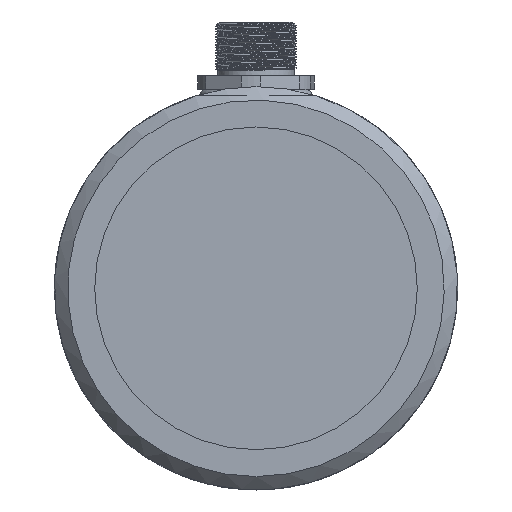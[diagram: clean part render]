
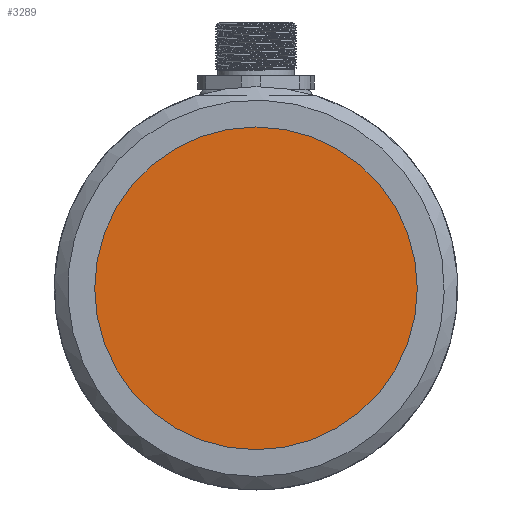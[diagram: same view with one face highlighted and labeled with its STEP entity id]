
A CAD part, left-side view. The second image highlights one B-rep face of the part: STEP entity #3289.
In plain terms, the highlighted planar face has unit normal (-1, 0, 0).
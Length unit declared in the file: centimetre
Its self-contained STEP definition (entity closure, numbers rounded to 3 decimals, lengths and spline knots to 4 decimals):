
#849=CIRCLE('',#3504,2.4);
#959=VERTEX_POINT('',#4321);
#1527=EDGE_CURVE('',#959,#959,#849,.T.);
#1973=ORIENTED_EDGE('',*,*,#1527,.T.);
#2794=EDGE_LOOP('',(#1973));
#3044=FACE_BOUND('',#2794,.T.);
#3289=ADVANCED_FACE('',(#3044),#18809,.T.);
#3504=AXIS2_PLACEMENT_3D('',#4320,#3768,#3769);
#3506=AXIS2_PLACEMENT_3D('',#4324,#3772,$);
#3768=DIRECTION('',(-1.,0.,0.));
#3769=DIRECTION('',(0.,0.,2.4));
#3772=DIRECTION('',(-1.,0.,0.));
#4320=CARTESIAN_POINT('',(0.1,0.,0.));
#4321=CARTESIAN_POINT('',(0.1,0.,2.4));
#4324=CARTESIAN_POINT('',(0.1,0.,0.));
#18809=PLANE('',#3506);
